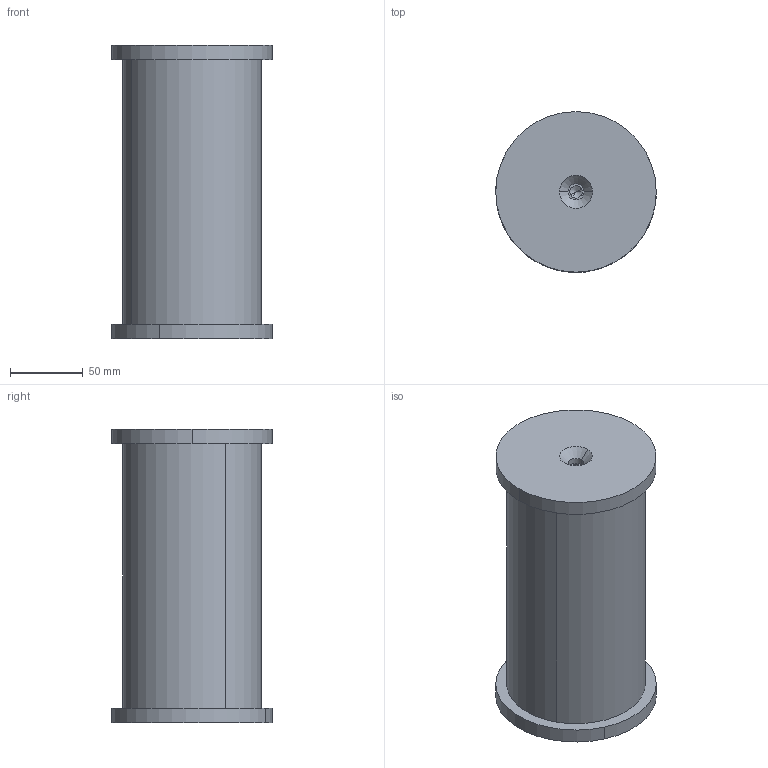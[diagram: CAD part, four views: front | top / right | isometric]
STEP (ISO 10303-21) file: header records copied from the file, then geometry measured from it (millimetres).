
FILE_DESCRIPTION (( 'STEP AP203' ), '1' );
FILE_NAME ('Bolzen Scheibe A M90.STEP', '2018-02-20T07:41:19', ( 'install' ), ( 'Hewlett-Packard Company' ), 'SwSTEP 2.0', 'SolidWorks 2017', '' );
FILE_SCHEMA (( 'CONFIG_CONTROL_DESIGN' ));
Length unit declared in the file: millimetre
Products named in the file (3): Bolzen Scheibe A M90; Scheibe_M90; Bolzen ScheibeVarA_generisch_M90
Assembly tree (3 placements, depth 2):
  Bolzen Scheibe A M90
    Scheibe_M90  x2
    Bolzen ScheibeVarA_generisch_M90
Bounding box: 110 x 110 x 201 mm (x, y, z)
Volume: 1466563.4 mm3; surface area: 114654.2 mm2
Topology: 3 solids, 3 shells, 28 faces, 58 edges, 34 vertices
Faces by surface type: cylinder 14, cone 8, plane 6
Entity records: 853 total; most frequent: DIRECTION 112, CARTESIAN_POINT 88, ORIENTED_EDGE 76, AXIS2_PLACEMENT_3D 48, EDGE_CURVE 38, PERSON_AND_ORGANIZATION 27, VERTEX_POINT 24, EDGE_LOOP 24
